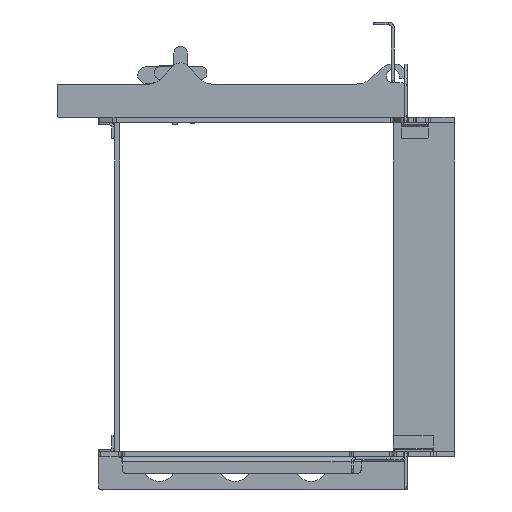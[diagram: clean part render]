
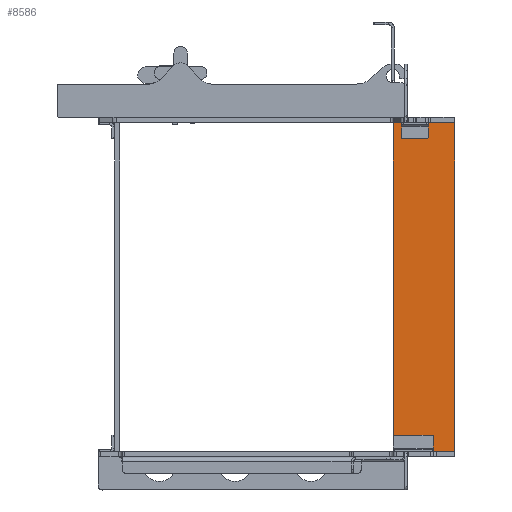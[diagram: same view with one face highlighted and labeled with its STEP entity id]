
A CAD part, left-side view. The second image highlights one B-rep face of the part: STEP entity #8586.
In plain terms, the highlighted planar face has unit normal (-1, 0, 0).
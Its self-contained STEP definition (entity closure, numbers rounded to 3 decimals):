
#632=FACE_OUTER_BOUND('',#1118,.T.);
#1118=EDGE_LOOP('',(#6618,#6619,#6620,#6621,#6622,#6623,#6624,#6625));
#1741=LINE('',#13459,#2571);
#1747=LINE('',#13479,#2577);
#1750=LINE('',#13487,#2580);
#1752=LINE('',#13493,#2582);
#2571=VECTOR('',#10871,10.);
#2577=VECTOR('',#10891,10.);
#2580=VECTOR('',#10900,10.);
#2582=VECTOR('',#10908,10.);
#3236=CIRCLE('',#9274,1.);
#3241=CIRCLE('',#9282,1.);
#3242=CIRCLE('',#9285,1.);
#3243=CIRCLE('',#9288,1.);
#3812=VERTEX_POINT('',#13446);
#3813=VERTEX_POINT('',#13447);
#3817=VERTEX_POINT('',#13457);
#3823=VERTEX_POINT('',#13473);
#3824=VERTEX_POINT('',#13477);
#3825=VERTEX_POINT('',#13481);
#3826=VERTEX_POINT('',#13485);
#3827=VERTEX_POINT('',#13489);
#4803=EDGE_CURVE('',#3812,#3813,#3236,.T.);
#4809=EDGE_CURVE('',#3817,#3812,#1741,.T.);
#4816=EDGE_CURVE('',#3823,#3817,#3241,.T.);
#4819=EDGE_CURVE('',#3824,#3823,#1747,.T.);
#4820=EDGE_CURVE('',#3825,#3824,#3242,.T.);
#4823=EDGE_CURVE('',#3826,#3825,#1750,.T.);
#4824=EDGE_CURVE('',#3827,#3826,#3243,.T.);
#4826=EDGE_CURVE('',#3813,#3827,#1752,.T.);
#6618=ORIENTED_EDGE('',*,*,#4803,.F.);
#6619=ORIENTED_EDGE('',*,*,#4809,.F.);
#6620=ORIENTED_EDGE('',*,*,#4816,.F.);
#6621=ORIENTED_EDGE('',*,*,#4819,.F.);
#6622=ORIENTED_EDGE('',*,*,#4820,.F.);
#6623=ORIENTED_EDGE('',*,*,#4823,.F.);
#6624=ORIENTED_EDGE('',*,*,#4824,.F.);
#6625=ORIENTED_EDGE('',*,*,#4826,.F.);
#8233=PLANE('',#9290);
#8586=ADVANCED_FACE('',(#632),#8233,.T.);
#9274=AXIS2_PLACEMENT_3D('',#13448,#10861,#10862);
#9282=AXIS2_PLACEMENT_3D('',#13474,#10885,#10886);
#9285=AXIS2_PLACEMENT_3D('',#13482,#10894,#10895);
#9288=AXIS2_PLACEMENT_3D('',#13490,#10903,#10904);
#9290=AXIS2_PLACEMENT_3D('',#13494,#10909,#10910);
#10861=DIRECTION('center_axis',(1.,0.,0.));
#10862=DIRECTION('ref_axis',(0.,0.707,-0.707));
#10871=DIRECTION('',(0.,1.,0.));
#10885=DIRECTION('center_axis',(1.,0.,0.));
#10886=DIRECTION('ref_axis',(0.,-0.707,-0.707));
#10891=DIRECTION('',(0.,0.,-1.));
#10894=DIRECTION('center_axis',(1.,0.,0.));
#10895=DIRECTION('ref_axis',(0.,-0.707,0.707));
#10900=DIRECTION('',(0.,-1.,0.));
#10903=DIRECTION('center_axis',(1.,0.,0.));
#10904=DIRECTION('ref_axis',(0.,0.707,0.707));
#10908=DIRECTION('',(0.,0.,1.));
#10909=DIRECTION('center_axis',(-1.,0.,0.));
#10910=DIRECTION('ref_axis',(0.,-1.,0.));
#13446=CARTESIAN_POINT('',(0.,92.,-499.));
#13447=CARTESIAN_POINT('',(0.,93.,-498.));
#13448=CARTESIAN_POINT('Origin',(0.,92.,
-498.));
#13457=CARTESIAN_POINT('',(0.,1.,-499.));
#13459=CARTESIAN_POINT('',(0.,93.,-499.));
#13473=CARTESIAN_POINT('',(0.,0.,
-498.));
#13474=CARTESIAN_POINT('Origin',(0.,1.,
-498.));
#13477=CARTESIAN_POINT('',(0.,0.,-1.));
#13479=CARTESIAN_POINT('',(0.,0.,
-499.));
#13481=CARTESIAN_POINT('',(0.,1.,0.));
#13482=CARTESIAN_POINT('Origin',(0.,1.,
-1.));
#13485=CARTESIAN_POINT('',(0.,92.,0.));
#13487=CARTESIAN_POINT('',(0.,0.,0.));
#13489=CARTESIAN_POINT('',(0.,93.,-1.));
#13490=CARTESIAN_POINT('Origin',(0.,92.,
-1.));
#13493=CARTESIAN_POINT('',(0.,93.,0.));
#13494=CARTESIAN_POINT('Origin',(0.,46.5,-249.5));
